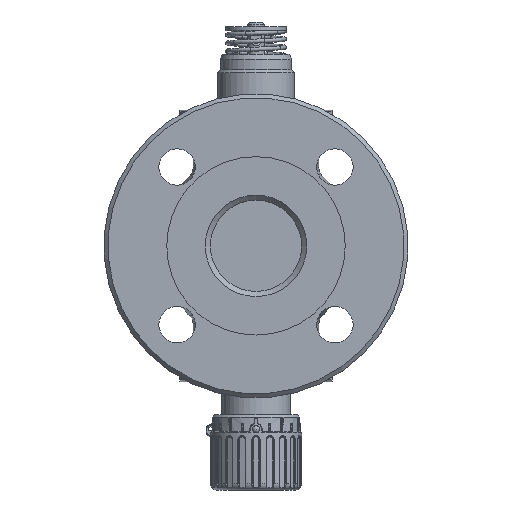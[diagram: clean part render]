
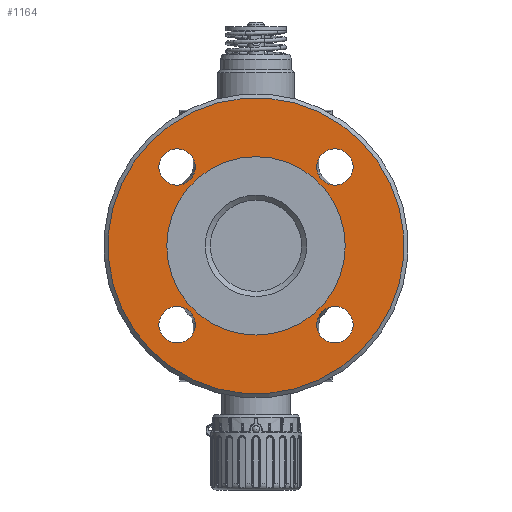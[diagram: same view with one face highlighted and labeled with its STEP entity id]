
A CAD part, left-side view. The second image highlights one B-rep face of the part: STEP entity #1164.
In plain terms, the highlighted planar face has unit normal (-1, 0, 0).
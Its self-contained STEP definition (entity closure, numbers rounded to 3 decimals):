
#369=FACE_BOUND('',#2420,.T.);
#370=FACE_BOUND('',#2421,.T.);
#371=FACE_BOUND('',#2422,.T.);
#372=FACE_BOUND('',#2423,.T.);
#373=FACE_BOUND('',#2424,.T.);
#374=FACE_BOUND('',#2425,.T.);
#984=PLANE('',#8897);
#1164=ADVANCED_FACE('',(#369,#370,#371,#372,#373,#374),#984,.T.);
#2420=EDGE_LOOP('',(#3686));
#2421=EDGE_LOOP('',(#3687));
#2422=EDGE_LOOP('',(#3688));
#2423=EDGE_LOOP('',(#3689));
#2424=EDGE_LOOP('',(#3690));
#2425=EDGE_LOOP('',(#3691));
#3056=CIRCLE('',#8853,44.);
#3077=CIRCLE('',#8892,73.);
#3078=CIRCLE('',#8893,9.);
#3079=CIRCLE('',#8894,9.);
#3080=CIRCLE('',#8895,9.);
#3081=CIRCLE('',#8896,9.);
#3686=ORIENTED_EDGE('',*,*,#6892,.T.);
#3687=ORIENTED_EDGE('',*,*,#6865,.T.);
#3688=ORIENTED_EDGE('',*,*,#6893,.T.);
#3689=ORIENTED_EDGE('',*,*,#6894,.T.);
#3690=ORIENTED_EDGE('',*,*,#6895,.T.);
#3691=ORIENTED_EDGE('',*,*,#6896,.T.);
#6047=VERTEX_POINT('',#12242);
#6066=VERTEX_POINT('',#12312);
#6067=VERTEX_POINT('',#12314);
#6068=VERTEX_POINT('',#12316);
#6069=VERTEX_POINT('',#12318);
#6070=VERTEX_POINT('',#12320);
#6865=EDGE_CURVE('',#6047,#6047,#3056,.T.);
#6892=EDGE_CURVE('',#6066,#6066,#3077,.T.);
#6893=EDGE_CURVE('',#6067,#6067,#3078,.T.);
#6894=EDGE_CURVE('',#6068,#6068,#3079,.T.);
#6895=EDGE_CURVE('',#6069,#6069,#3080,.T.);
#6896=EDGE_CURVE('',#6070,#6070,#3081,.T.);
#8853=AXIS2_PLACEMENT_3D('',#12241,#9921,#9922);
#8892=AXIS2_PLACEMENT_3D('',#12311,#10003,#10004);
#8893=AXIS2_PLACEMENT_3D('',#12313,#10005,#10006);
#8894=AXIS2_PLACEMENT_3D('',#12315,#10007,#10008);
#8895=AXIS2_PLACEMENT_3D('',#12317,#10009,#10010);
#8896=AXIS2_PLACEMENT_3D('',#12319,#10011,#10012);
#8897=AXIS2_PLACEMENT_3D('',#12321,#10013,#10014);
#9921=DIRECTION('',(1.,0.,0.));
#9922=DIRECTION('',(0.,0.,1.));
#10003=DIRECTION('',(-1.,0.,0.));
#10004=DIRECTION('',(0.,-0.707,0.707));
#10005=DIRECTION('',(1.,0.,0.));
#10006=DIRECTION('',(0.,-0.707,-0.707));
#10007=DIRECTION('',(1.,0.,0.));
#10008=DIRECTION('',(0.,-0.707,0.707));
#10009=DIRECTION('',(1.,0.,0.));
#10010=DIRECTION('',(0.,0.707,0.707));
#10011=DIRECTION('',(1.,0.,0.));
#10012=DIRECTION('',(0.,0.707,-0.707));
#10013=DIRECTION('',(-1.,0.,0.));
#10014=DIRECTION('',(0.,-0.707,0.707));
#12241=CARTESIAN_POINT('',(-97.,0.,0.));
#12242=CARTESIAN_POINT('',(-97.,0.,44.));
#12311=CARTESIAN_POINT('',(-97.,0.,0.));
#12312=CARTESIAN_POINT('',(-97.,-51.619,51.619));
#12313=CARTESIAN_POINT('',(-97.,-38.891,38.891));
#12314=CARTESIAN_POINT('',(-97.,-45.255,32.527));
#12315=CARTESIAN_POINT('',(-97.,38.891,38.891));
#12316=CARTESIAN_POINT('',(-97.,32.527,45.255));
#12317=CARTESIAN_POINT('',(-97.,38.891,-38.891));
#12318=CARTESIAN_POINT('',(-97.,45.255,-32.527));
#12319=CARTESIAN_POINT('',(-97.,-38.891,-38.891));
#12320=CARTESIAN_POINT('',(-97.,-32.527,-45.255));
#12321=CARTESIAN_POINT('',(-97.,0.,0.));
